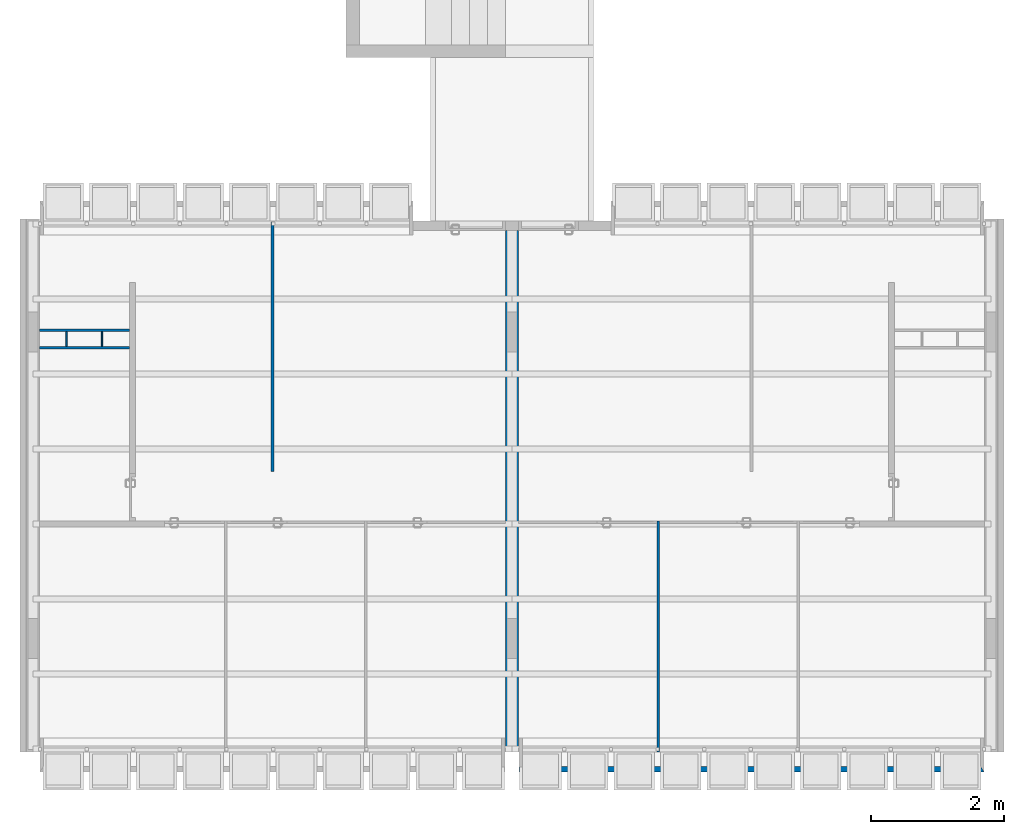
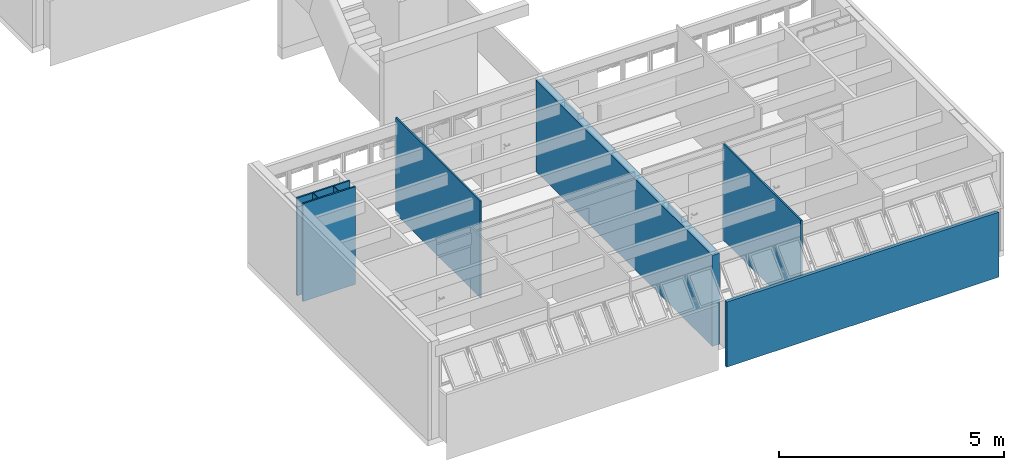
# One storey, part 8 of 37: 8 walls.
"""IFC2X3 building model written with IfcOpenShell, lengths in millimetres."""

from ifc_helpers import new_model, entity, si_unit, converted_unit, derived_unit, money_unit, direction, frame, origin_with_axes, place, context, subcontext, project, spatial, polyline, outline, extrude, material, layer, layer_set, layer_usage, type_object, element, save


model = new_model("IFC2X3")

# Units and contexts
model_context = context("Model", 3, precision=0.01, world=origin_with_axes(), true_north=direction((0.0, 1.0)))
body_context = subcontext(model_context, "Body", "Model", "MODEL_VIEW")
ifc_project = project(units=[si_unit("LENGTHUNIT", "METRE", prefix="MILLI"), si_unit("AREAUNIT", "SQUARE_METRE"), si_unit("VOLUMEUNIT", "CUBIC_METRE"), converted_unit("PLANEANGLEUNIT", "DEGREE", entity("IfcPlaneAngleMeasure", 0.0174532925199), si_unit("PLANEANGLEUNIT", "RADIAN"), dimensions=[0, 0, 0, 0, 0, 0, 0]), money_unit("USD"), converted_unit("TIMEUNIT", "Year", entity("IfcTimeMeasure", 31556926.0), si_unit("TIMEUNIT", "SECOND"), dimensions=[0, 0, 1, 0, 0, 0, 0]), si_unit("MASSUNIT", "GRAM", prefix="KILO"), si_unit("THERMODYNAMICTEMPERATUREUNIT", "DEGREE_CELSIUS"), si_unit("LUMINOUSINTENSITYUNIT", "LUMEN"), si_unit("ENERGYUNIT", "JOULE", prefix="MEGA"), derived_unit("THERMALCONDUCTANCEUNIT", [(si_unit("POWERUNIT", "WATT"), 1), (si_unit("LENGTHUNIT", "METRE"), -1), (si_unit("THERMODYNAMICTEMPERATUREUNIT", "KELVIN"), -1)]), derived_unit("SPECIFICHEATCAPACITYUNIT", [(si_unit("ENERGYUNIT", "JOULE"), 1), (si_unit("MASSUNIT", "GRAM", prefix="KILO"), -1), (si_unit("THERMODYNAMICTEMPERATUREUNIT", "KELVIN"), -1)]), derived_unit("MASSDENSITYUNIT", [(si_unit("MASSUNIT", "GRAM", prefix="KILO"), 1), (si_unit("VOLUMEUNIT", "CUBIC_METRE"), -1)])], contexts=[model_context])

# Site, building, storey
site_placement = place(None, origin_with_axes())
site = spatial("IfcSite", under=ifc_project, at=site_placement, Name="Local", CompositionType="ELEMENT")
building_placement = place(site_placement, origin_with_axes())
building = spatial("IfcBuilding", under=site, at=building_placement, Name="Construção", CompositionType="ELEMENT")
storey_placement = place(building_placement, origin_with_axes())
storey = spatial("IfcBuildingStorey", under=building, at=storey_placement, Name="Primeiro Pavimento", CompositionType="ELEMENT", Elevation=0.0)

# Walls
ifc_material_1 = material(Name="GENÉRICO - VEDAÇÃO EXTERNA")
ifc_layer_1 = layer(ifc_material_1, 190.0, ventilated="UNKNOWN")
ifc_layer_set_1 = layer_set([ifc_layer_1], Name="GENÉRICO - VEDAÇÃO EXTERNA 190")
ifc_layer_usage_1 = layer_usage(ifc_layer_set_1, "AXIS2", "NEGATIVE", 0.0)
wall_type_1 = type_object("IfcWallType", Name="GENÉRICO - VEDAÇÃO EXTERNA 190", PredefinedType="NOTDEFINED")
wall_1_placement = place(storey_placement, frame((7480.0, 8125.0, 0.0), z_axis=(0.0, 0.0, 1.0), x_axis=(0.0, -1.0, 0.0)))
element("IfcWallStandardCase", 1, at=wall_1_placement, inside=storey, type_object=wall_type_1, material=ifc_layer_usage_1, Name="CIRC1-PAREDE-026", context=body_context, shape_type="SweptSolid", body=[
    extrude(outline(polyline([(1.06581410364e-10, -190.0), (7825.0, -190.0), (7825.0, 0.0), (1.06581410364e-10, 0.0), (1.06581410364e-10, -190.0)])), origin_with_axes(), (0.0, 0.0, 1.0), 2470.0),
])
ifc_layer_2 = layer(ifc_material_1, 40.0, ventilated="UNKNOWN")
ifc_layer_set_2 = layer_set([ifc_layer_2], Name="GENÉRICO - VEDAÇÃO EXTERNA 40")
ifc_layer_usage_2 = layer_usage(ifc_layer_set_2, "AXIS2", "POSITIVE", 0.0)
wall_type_2 = type_object("IfcWallType", Name="GENÉRICO - VEDAÇÃO EXTERNA 40", PredefinedType="NOTDEFINED")
wall_2_placement = place(storey_placement, frame((9560.0, 3765.0, 0.0), z_axis=(0.0, 0.0, 1.0), x_axis=(0.0, -1.0, 0.0)))
element("IfcWallStandardCase", 2, at=wall_2_placement, inside=storey, type_object=wall_type_2, material=ifc_layer_usage_2, Name="APTO2-PAREDE-005", context=body_context, shape_type="SweptSolid", body=[
    extrude(outline(polyline([(0.0, 0.0), (3465.0, 0.0), (3465.0, 40.0), (0.0, 40.0), (0.0, 0.0)])), origin_with_axes(), (0.0, 0.0, 1.0), 2620.0),
])
ifc_layer_usage_3 = layer_usage(ifc_layer_set_2, "AXIS2", "NEGATIVE", 40.0)
wall_3_placement = place(storey_placement, frame((1730.0, 6645.0, 0.0), z_axis=(0.0, 0.0, 1.0), x_axis=(-1.0, 0.0, 0.0)))
element("IfcWallStandardCase", 3, at=wall_3_placement, inside=storey, type_object=wall_type_2, material=ifc_layer_usage_3, Name="APTO1-PAREDE-010", context=body_context, shape_type="SweptSolid", body=[
    extrude(outline(polyline([(90.0, 0.0), (1440.0, 0.0), (1440.0, 40.0), (90.0, 40.0), (90.0, 0.0)])), origin_with_axes(), (0.0, 0.0, 1.0), 2650.0),
])
ifc_layer_usage_4 = layer_usage(ifc_layer_set_2, "AXIS2", "NEGATIVE", 40.0)
wall_4_placement = place(storey_placement, frame((290.0, 6345.0, 0.0), z_axis=(0.0, 0.0, 1.0), x_axis=(1.0, 0.0, 0.0)))
element("IfcWallStandardCase", 4, at=wall_4_placement, inside=storey, type_object=wall_type_2, material=ifc_layer_usage_4, Name="APTO1-PAREDE-011", context=body_context, shape_type="SweptSolid", body=[
    extrude(outline(polyline([(0.0, 0.0), (1350.0, 0.0), (1350.0, 40.0), (0.0, 40.0), (0.0, 0.0)])), origin_with_axes(), (0.0, 0.0, 1.0), 2650.0),
])
ifc_layer_usage_5 = layer_usage(ifc_layer_set_2, "AXIS2", "NEGATIVE", 40.0)
wall_5_placement = place(storey_placement, frame((3810.0, 4505.0, 0.0), z_axis=(0.0, 0.0, 1.0), x_axis=(0.0, 1.0, 0.0)))
element("IfcWallStandardCase", 5, at=wall_5_placement, inside=storey, type_object=wall_type_2, material=ifc_layer_usage_5, Name="APTO1-PAREDE-003", context=body_context, shape_type="SweptSolid", body=[
    extrude(outline(polyline([(0.0, 0.0), (3750.0, 0.0), (3750.0, 40.0), (0.0, 40.0), (0.0, 0.0)])), origin_with_axes(), (0.0, 0.0, 1.0), 2620.0),
])
ifc_layer_3 = layer(ifc_material_1, 20.0, ventilated="UNKNOWN")
ifc_layer_set_3 = layer_set([ifc_layer_3], Name="GENÉRICO - VEDAÇÃO EXTERNA 20")
ifc_layer_usage_6 = layer_usage(ifc_layer_set_3, "AXIS2", "NEGATIVE", 0.0)
wall_type_3 = type_object("IfcWallType", Name="GENÉRICO - VEDAÇÃO EXTERNA 20", PredefinedType="NOTDEFINED")
wall_6_placement = place(storey_placement, frame((1240.0, 6645.0, 0.0), z_axis=(0.0, 0.0, 1.0), x_axis=(0.0, -1.0, 0.0)))
element("IfcWallStandardCase", 6, at=wall_6_placement, inside=storey, type_object=wall_type_3, material=ifc_layer_usage_6, Name="APTO1-PAREDE-008", context=body_context, shape_type="SweptSolid", body=[
    extrude(outline(polyline([(40.0, -20.0), (260.0, -20.0), (260.0, 0.0), (40.0, 0.0), (40.0, -20.0)])), origin_with_axes(), (0.0, 0.0, 1.0), 2650.0),
])
ifc_layer_usage_7 = layer_usage(ifc_layer_set_3, "AXIS2", "NEGATIVE", 20.0)
wall_7_placement = place(storey_placement, frame((710.0, 6345.0, 0.0), z_axis=(0.0, 0.0, 1.0), x_axis=(0.0, 1.0, 0.0)))
element("IfcWallStandardCase", 7, at=wall_7_placement, inside=storey, type_object=wall_type_3, material=ifc_layer_usage_7, Name="APTO1-PAREDE-009", context=body_context, shape_type="SweptSolid", body=[
    extrude(outline(polyline([(40.0, 0.0), (260.0, 0.0), (260.0, 20.0), (40.0, 20.0), (40.0, 0.0)])), origin_with_axes(), (0.0, 0.0, 1.0), 2650.0),
])
ifc_material_2 = material(Name="Concreto Armado Moldado in Loco - Estrutural")
ifc_layer_4 = layer(ifc_material_2, 80.0, ventilated="UNKNOWN")
ifc_layer_set_4 = layer_set([ifc_layer_4], Name="Concreto Armado Moldado in Loco - Estrutural 80")
ifc_layer_usage_8 = layer_usage(ifc_layer_set_4, "AXIS2", "NEGATIVE", 80.0)
wall_type_4 = type_object("IfcWallType", Name="Concreto Armado Moldado in Loco - Estrutural 80", PredefinedType="NOTDEFINED")
wall_8_placement = place(storey_placement, frame((14470.0, 79.9999999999, -450.0), z_axis=(0.0, 0.0, 1.0), x_axis=(-1.0, 0.0, 0.0)))
element("IfcWallStandardCase", 8, at=wall_8_placement, inside=storey, type_object=wall_type_4, material=ifc_layer_usage_8, Name="APTO2-PAREDE-015", context=body_context, shape_type="SweptSolid", body=[
    extrude(outline(polyline([(50.0, 0.0), (6980.0, 0.0), (6980.0, 80.0), (0.0, 80.0), (50.0, 0.0)])), origin_with_axes(), (0.0, 0.0, 1.0), 1765.0),
])

save(model, "model.ifc")
